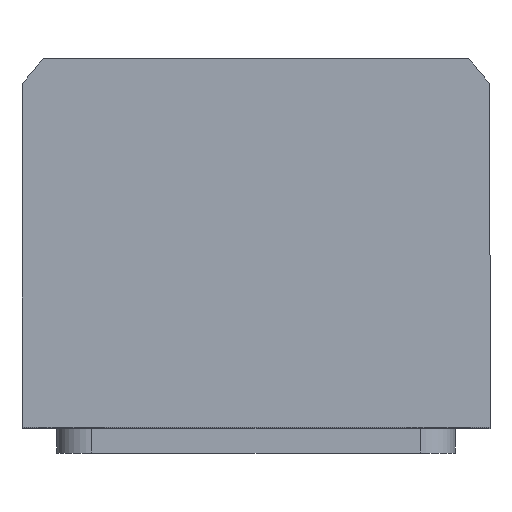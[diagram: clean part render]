
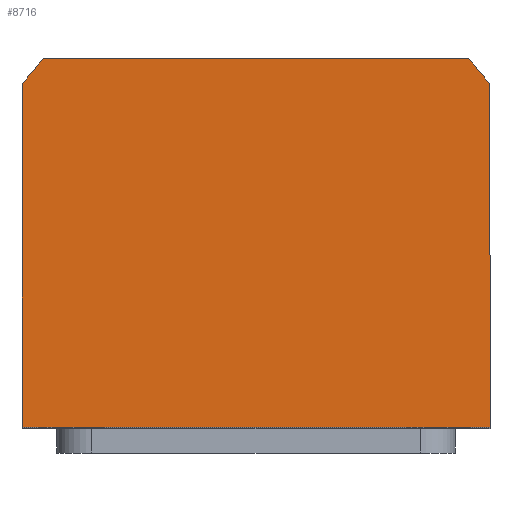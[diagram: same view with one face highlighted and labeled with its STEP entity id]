
A CAD part, top view. The second image highlights one B-rep face of the part: STEP entity #8716.
In plain terms, the highlighted planar face has unit normal (0, 0, 1).
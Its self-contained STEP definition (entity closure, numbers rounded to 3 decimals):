
#2 = DIRECTION ( 'NONE',  ( 0., -1., 0. ) ) ;
#331 = VERTEX_POINT ( 'NONE', #3496 ) ;
#541 = EDGE_CURVE ( 'NONE', #5482, #331, #10847, .T. ) ;
#690 = EDGE_LOOP ( 'NONE', ( #1154, #8629, #8930, #5169, #1803, #5596 ) ) ;
#734 = CIRCLE ( 'NONE', #10633, 58.5 ) ;
#745 = CARTESIAN_POINT ( 'NONE',  ( -42.688, 40., 72.5 ) ) ;
#822 = EDGE_CURVE ( 'NONE', #6821, #9745, #734, .T. ) ;
#1017 = LINE ( 'NONE', #11133, #5249 ) ;
#1154 = ORIENTED_EDGE ( 'NONE', *, *, #9426, .T. ) ;
#1270 = VECTOR ( 'NONE', #2, 1000. ) ;
#1356 = VECTOR ( 'NONE', #5440, 1000. ) ;
#1657 = CARTESIAN_POINT ( 'NONE',  ( -47., 34.832, 72.5 ) ) ;
#1681 = AXIS2_PLACEMENT_3D ( 'NONE', #8760, #1788, #4472 ) ;
#1788 = DIRECTION ( 'NONE',  ( 0., 0., 1. ) ) ;
#1803 = ORIENTED_EDGE ( 'NONE', *, *, #1832, .T. ) ;
#1832 = EDGE_CURVE ( 'NONE', #3841, #5482, #6343, .T. ) ;
#2415 = DIRECTION ( 'NONE',  ( 0., 0., 1. ) ) ;
#2498 = CARTESIAN_POINT ( 'NONE',  ( 42.688, 40., 72.5 ) ) ;
#2689 = CARTESIAN_POINT ( 'NONE',  ( -47., -34., 72.5 ) ) ;
#3180 = FACE_OUTER_BOUND ( 'NONE', #690, .T. ) ;
#3496 = CARTESIAN_POINT ( 'NONE',  ( -47., -34., 72.5 ) ) ;
#3841 = VERTEX_POINT ( 'NONE', #745 ) ;
#4009 = EDGE_CURVE ( 'NONE', #9800, #6821, #8218, .T. ) ;
#4472 = DIRECTION ( 'NONE',  ( 1., 0., 0. ) ) ;
#4611 = DIRECTION ( 'NONE',  ( 0., 0., 1. ) ) ;
#4633 = DIRECTION ( 'NONE',  ( 1., 0., 0. ) ) ;
#5056 = CARTESIAN_POINT ( 'NONE',  ( 47., 34.832, 72.5 ) ) ;
#5169 = ORIENTED_EDGE ( 'NONE', *, *, #5356, .T. ) ;
#5249 = VECTOR ( 'NONE', #6758, 1000. ) ;
#5356 = EDGE_CURVE ( 'NONE', #9745, #3841, #1017, .T. ) ;
#5430 = VECTOR ( 'NONE', #4633, 1000. ) ;
#5440 = DIRECTION ( 'NONE',  ( 0., 1., 0. ) ) ;
#5444 = DIRECTION ( 'NONE',  ( 1., 0., 0. ) ) ;
#5482 = VERTEX_POINT ( 'NONE', #1657 ) ;
#5596 = ORIENTED_EDGE ( 'NONE', *, *, #541, .T. ) ;
#5906 = DIRECTION ( 'NONE',  ( 1., 0., 0. ) ) ;
#6110 = PLANE ( 'NONE',  #1681 ) ;
#6211 = CARTESIAN_POINT ( 'NONE',  ( 47., -34., 72.5 ) ) ;
#6343 = CIRCLE ( 'NONE', #6621, 58.5 ) ;
#6621 = AXIS2_PLACEMENT_3D ( 'NONE', #7693, #2415, #5906 ) ;
#6758 = DIRECTION ( 'NONE',  ( -1., 0., 0. ) ) ;
#6821 = VERTEX_POINT ( 'NONE', #5056 ) ;
#7693 = CARTESIAN_POINT ( 'NONE',  ( 0., 0., 72.5 ) ) ;
#8218 = LINE ( 'NONE', #8957, #1356 ) ;
#8629 = ORIENTED_EDGE ( 'NONE', *, *, #4009, .T. ) ;
#8716 = ADVANCED_FACE ( 'NONE', ( #3180 ), #6110, .T. ) ;
#8760 = CARTESIAN_POINT ( 'NONE',  ( 0., 0., 72.5 ) ) ;
#8930 = ORIENTED_EDGE ( 'NONE', *, *, #822, .T. ) ;
#8957 = CARTESIAN_POINT ( 'NONE',  ( 47., 34.832, 72.5 ) ) ;
#8959 = CARTESIAN_POINT ( 'NONE',  ( 0., 0., 72.5 ) ) ;
#9426 = EDGE_CURVE ( 'NONE', #331, #9800, #11027, .T. ) ;
#9745 = VERTEX_POINT ( 'NONE', #2498 ) ;
#9800 = VERTEX_POINT ( 'NONE', #6211 ) ;
#10633 = AXIS2_PLACEMENT_3D ( 'NONE', #8959, #4611, #5444 ) ;
#10781 = CARTESIAN_POINT ( 'NONE',  ( 47., -34., 72.5 ) ) ;
#10847 = LINE ( 'NONE', #2689, #1270 ) ;
#11027 = LINE ( 'NONE', #10781, #5430 ) ;
#11133 = CARTESIAN_POINT ( 'NONE',  ( -42.688, 40., 72.5 ) ) ;
